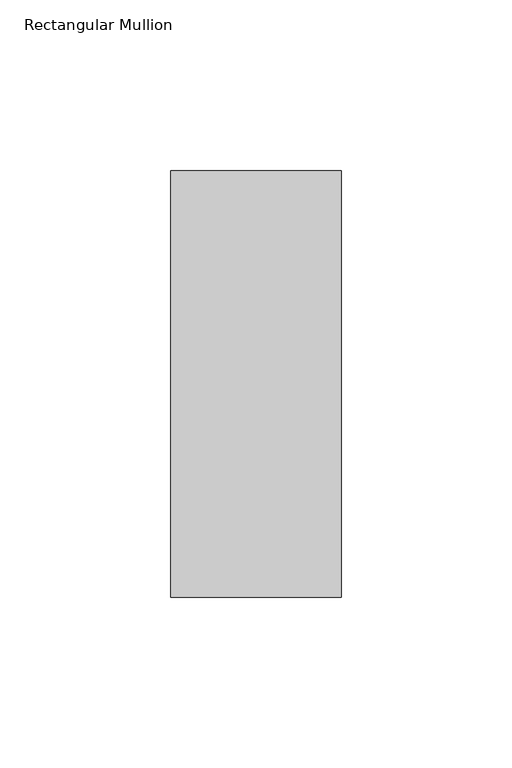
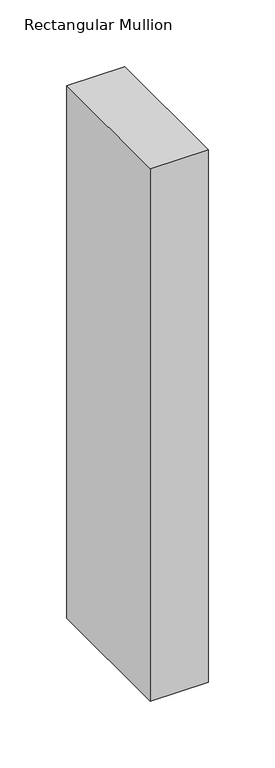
"""IFC4 building model written with IfcOpenShell, lengths in millimetres: member geometry, Rectangular Mullion : DucoSun Cubic Design profile 50x125 for louvre 600."""

from ifc_helpers import new_model, si_unit, frame, origin, place, context, project, spatial, polyline, outline, extrude, source, transform, mapped, element, save


def rectangular_mullion_bf93cbae(model_context):
    return source(origin(), model_context, "Body", "SweptSolid", [
        extrude(outline(polyline([(0.0, -237.5), (0.0, -362.5), (-50.0, -362.5), (-50.0, -237.5), (0.0, -237.5)])), frame((0.0, 0.0, -486.4), z_axis=(0.0, 0.0, 1.0), x_axis=(1.0, 0.0, 0.0)), (0.0, 0.0, 1.0), 486.4),
    ])


if __name__ == "__main__":
    model = new_model("IFC4")
    model_context = context("Model", 3, world=origin())
    ifc_project = project(units=[si_unit("LENGTHUNIT", "METRE", prefix="MILLI")], contexts=[model_context])
    site = spatial("IfcSite", under=ifc_project)
    building = spatial("IfcBuilding", under=site)
    placement = place(None, origin())
    rectangular_mullion_shape = rectangular_mullion_bf93cbae(model_context)
    element("IfcMember", 1, ObjectType="Rectangular Mullion : DucoSun Cubic Design profile 50x125 for louvre 600", at=placement, inside=building, context=model_context, shape_type="MappedRepresentation", body=[
        mapped(rectangular_mullion_shape, transform((0.0, 0.0, 0.0), x_axis=(1.0, 0.0, 0.0), y_axis=(0.0, 1.0, 0.0), z_axis=(0.0, 0.0, 1.0))),
    ])
    save(model, "model.ifc")
